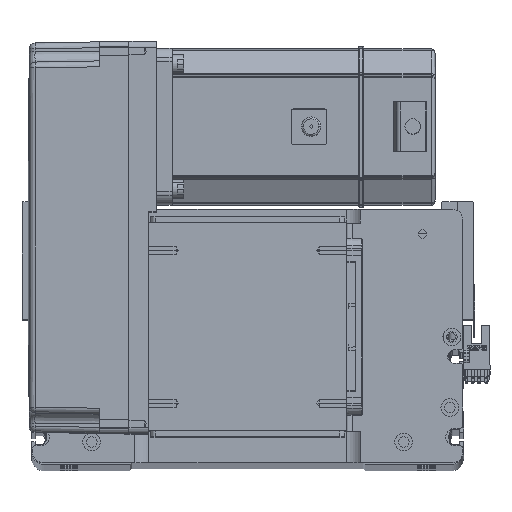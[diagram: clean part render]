
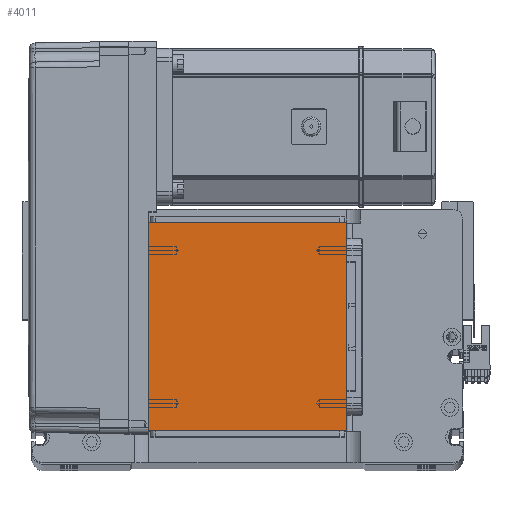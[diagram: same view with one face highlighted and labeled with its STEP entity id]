
A CAD part, top view. The second image highlights one B-rep face of the part: STEP entity #4011.
In plain terms, the highlighted planar face has unit normal (0, 0, 1).
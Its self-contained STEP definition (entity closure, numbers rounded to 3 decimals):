
#92 = DIRECTION ( 'NONE',  ( 0., -1., 0. ) ) ;
#740 = DIRECTION ( 'NONE',  ( -1., 0., 0. ) ) ;
#3922 = VERTEX_POINT ( 'NONE', #28992 ) ;
#4011 = ADVANCED_FACE ( 'NONE', ( #48872 ), #29670, .T. ) ;
#8353 = ORIENTED_EDGE ( 'NONE', *, *, #17859, .T. ) ;
#8970 = DIRECTION ( 'NONE',  ( 0., 1., 0. ) ) ;
#8992 = DIRECTION ( 'NONE',  ( 1., 0., 0. ) ) ;
#12929 = CARTESIAN_POINT ( 'NONE',  ( -50.5, 16., 115. ) ) ;
#13360 = VERTEX_POINT ( 'NONE', #33959 ) ;
#16572 = CARTESIAN_POINT ( 'NONE',  ( 50.5, 16., 115. ) ) ;
#17480 = CARTESIAN_POINT ( 'NONE',  ( 50.5, 122., 115. ) ) ;
#17772 = VECTOR ( 'NONE', #8970, 1000. ) ;
#17859 = EDGE_CURVE ( 'NONE', #20108, #3922, #20497, .T. ) ;
#18144 = LINE ( 'NONE', #25220, #46606 ) ;
#18636 = ORIENTED_EDGE ( 'NONE', *, *, #32252, .T. ) ;
#19822 = VECTOR ( 'NONE', #740, 1000. ) ;
#20108 = VERTEX_POINT ( 'NONE', #39409 ) ;
#20497 = LINE ( 'NONE', #21816, #19822 ) ;
#21816 = CARTESIAN_POINT ( 'NONE',  ( -50.5, 122., 115. ) ) ;
#23879 = ORIENTED_EDGE ( 'NONE', *, *, #34985, .T. ) ;
#25220 = CARTESIAN_POINT ( 'NONE',  ( -50.5, 122., 115. ) ) ;
#28039 = EDGE_LOOP ( 'NONE', ( #54317, #23879, #18636, #8353 ) ) ;
#28718 = LINE ( 'NONE', #12929, #49919 ) ;
#28992 = CARTESIAN_POINT ( 'NONE',  ( -50.5, 122., 115. ) ) ;
#29670 = PLANE ( 'NONE',  #52183 ) ;
#32252 = EDGE_CURVE ( 'NONE', #46170, #20108, #52809, .T. ) ;
#33947 = CARTESIAN_POINT ( 'NONE',  ( 0., 0., 115. ) ) ;
#33959 = CARTESIAN_POINT ( 'NONE',  ( -50.5, 16., 115. ) ) ;
#34985 = EDGE_CURVE ( 'NONE', #13360, #46170, #28718, .T. ) ;
#38235 = DIRECTION ( 'NONE',  ( 0., 0., 1. ) ) ;
#39409 = CARTESIAN_POINT ( 'NONE',  ( 50.5, 122., 115. ) ) ;
#42143 = DIRECTION ( 'NONE',  ( 1., 0., 0. ) ) ;
#46170 = VERTEX_POINT ( 'NONE', #16572 ) ;
#46193 = EDGE_CURVE ( 'NONE', #3922, #13360, #18144, .T. ) ;
#46606 = VECTOR ( 'NONE', #92, 1000. ) ;
#48872 = FACE_OUTER_BOUND ( 'NONE', #28039, .T. ) ;
#49919 = VECTOR ( 'NONE', #42143, 1000. ) ;
#52183 = AXIS2_PLACEMENT_3D ( 'NONE', #33947, #38235, #8992 ) ;
#52809 = LINE ( 'NONE', #17480, #17772 ) ;
#54317 = ORIENTED_EDGE ( 'NONE', *, *, #46193, .T. ) ;
